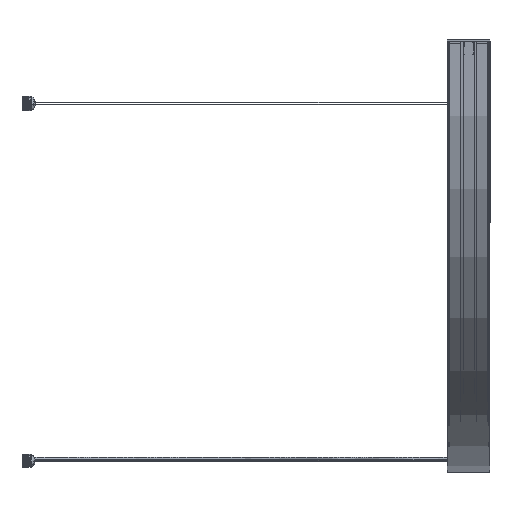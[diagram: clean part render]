
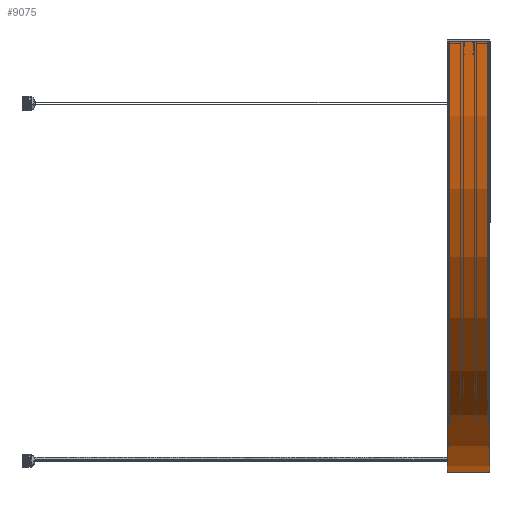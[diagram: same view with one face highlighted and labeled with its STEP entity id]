
A CAD part, left-side view. The second image highlights one B-rep face of the part: STEP entity #9075.
In plain terms, the highlighted cylindrical face has radius 505 mm (diameter 1010 mm), a partial arc.
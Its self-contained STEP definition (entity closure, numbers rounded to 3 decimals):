
#1000 = CIRCLE ( 'NONE', #15988, 505. ) ;
#1009 = CARTESIAN_POINT ( 'NONE',  ( 996.75, -24.95, 0. ) ) ;
#1089 = DIRECTION ( 'NONE',  ( 0., 0., 1. ) ) ;
#4589 = CARTESIAN_POINT ( 'NONE',  ( 996.75, -24.95, 0. ) ) ;
#4645 = VERTEX_POINT ( 'NONE', #23297 ) ;
#4713 = AXIS2_PLACEMENT_3D ( 'NONE', #7609, #19831, #16715 ) ;
#4966 = ORIENTED_EDGE ( 'NONE', *, *, #18725, .F. ) ;
#5205 = CARTESIAN_POINT ( 'NONE',  ( 491.75, 24.95, 0. ) ) ;
#7337 = DIRECTION ( 'NONE',  ( 0., 0., 1. ) ) ;
#7344 = CIRCLE ( 'NONE', #8739, 505. ) ;
#7523 = ORIENTED_EDGE ( 'NONE', *, *, #8309, .F. ) ;
#7609 = CARTESIAN_POINT ( 'NONE',  ( 491.75, 0., 0. ) ) ;
#8309 = EDGE_CURVE ( 'NONE', #4645, #14479, #1000, .T. ) ;
#8739 = AXIS2_PLACEMENT_3D ( 'NONE', #12087, #23123, #1089 ) ;
#9000 = DIRECTION ( 'NONE',  ( 0., 1., 0. ) ) ;
#9075 = ADVANCED_FACE ( 'NONE', ( #10097 ), #15815, .T. ) ;
#10097 = FACE_OUTER_BOUND ( 'NONE', #12995, .T. ) ;
#10515 = VECTOR ( 'NONE', #15822, 1000. ) ;
#11374 = CARTESIAN_POINT ( 'NONE',  ( -13.25, -24.95, 0. ) ) ;
#12087 = CARTESIAN_POINT ( 'NONE',  ( 491.75, -24.95, 0. ) ) ;
#12321 = ORIENTED_EDGE ( 'NONE', *, *, #17247, .T. ) ;
#12995 = EDGE_LOOP ( 'NONE', ( #13542, #12321, #7523, #4966 ) ) ;
#13542 = ORIENTED_EDGE ( 'NONE', *, *, #18717, .T. ) ;
#13889 = VECTOR ( 'NONE', #20681, 1000. ) ;
#14147 = VERTEX_POINT ( 'NONE', #4589 ) ;
#14479 = VERTEX_POINT ( 'NONE', #17169 ) ;
#14489 = LINE ( 'NONE', #1009, #10515 ) ;
#15290 = LINE ( 'NONE', #11374, #13889 ) ;
#15815 = CYLINDRICAL_SURFACE ( 'NONE', #4713, 505. ) ;
#15822 = DIRECTION ( 'NONE',  ( 0., 1., 0. ) ) ;
#15988 = AXIS2_PLACEMENT_3D ( 'NONE', #5205, #9000, #7337 ) ;
#16715 = DIRECTION ( 'NONE',  ( 0., 0., 1. ) ) ;
#17169 = CARTESIAN_POINT ( 'NONE',  ( -13.25, 24.95, 0. ) ) ;
#17247 = EDGE_CURVE ( 'NONE', #19777, #14479, #15290, .T. ) ;
#18717 = EDGE_CURVE ( 'NONE', #14147, #19777, #7344, .T. ) ;
#18725 = EDGE_CURVE ( 'NONE', #14147, #4645, #14489, .T. ) ;
#19733 = CARTESIAN_POINT ( 'NONE',  ( -13.25, -24.95, 0. ) ) ;
#19777 = VERTEX_POINT ( 'NONE', #19733 ) ;
#19831 = DIRECTION ( 'NONE',  ( 0., 1., 0. ) ) ;
#20681 = DIRECTION ( 'NONE',  ( 0., 1., 0. ) ) ;
#23123 = DIRECTION ( 'NONE',  ( 0., 1., 0. ) ) ;
#23297 = CARTESIAN_POINT ( 'NONE',  ( 996.75, 24.95, 0. ) ) ;
